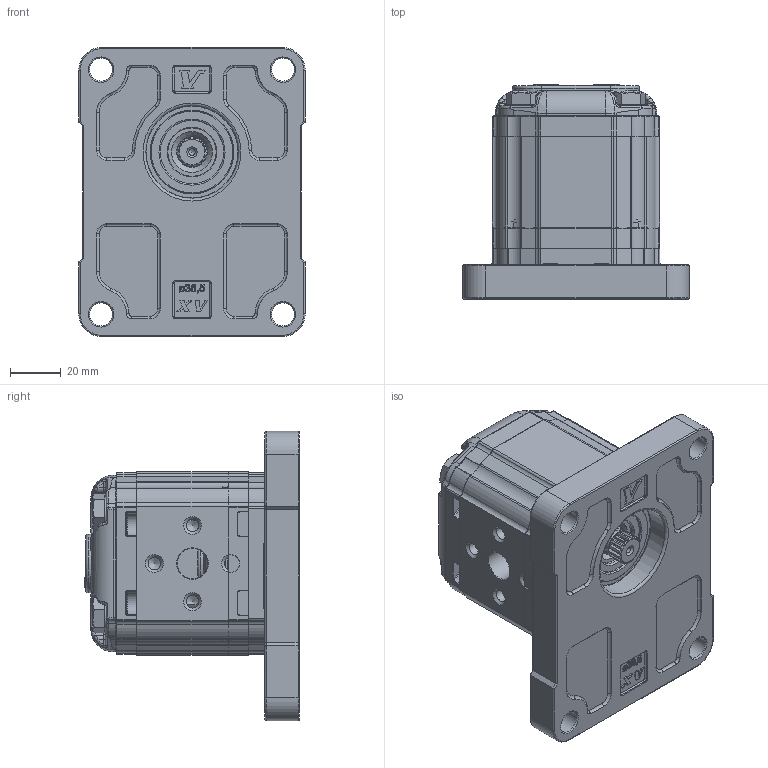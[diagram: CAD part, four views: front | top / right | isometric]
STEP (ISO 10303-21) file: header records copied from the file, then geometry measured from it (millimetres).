
FILE_DESCRIPTION( ( 'Unknown' ), '1' );
FILE_NAME( 'P:/montaggio_easy/output/STP/X1F1882TIIA.stp', 'Unknown', ( 'Unknown' ), ( 'Unknown' ), 'PSStep 14.0', 'Unknown', ' ' );
FILE_SCHEMA( ( 'AUTOMOTIVE_DESIGN { 1 0 10303 214 1 1 1 1 }' ) );
Length unit declared in the file: millimetre
Products named in the file (5): Assem1; X1F82; 1T; X1IIH44; XF103-A
Bounding box: 89 x 84.4 x 113.7 mm (x, y, z)
Volume: 768176.6 mm3; surface area: 149106.7 mm2
Topology: 8 solids, 8 shells, 4006 faces, 10392 edges, 6600 vertices
Faces by surface type: plane 1714, cylinder 1130, torus 468, extrusion 342, bspline 212, cone 128, sphere 12
Full cylindrical faces by diameter (mm): 2.5 x2, 3 x4, 5 x16, 8 x8, 8.5 x4, 9 x12, 9.9 x2, 10.5 x4, 11.965 x2, 12 x12, 15.941 x2, 17.135 x2, 17.99 x2, 19 x2, 25 x2, 32.5 x2, 36.5 x2
Entity records: 83707 total; most frequent: CARTESIAN_POINT 19504, ORIENTED_EDGE 10028, DIRECTION 9811, EDGE_CURVE 5014, AXIS2_PLACEMENT_3D 3435, VERTEX_POINT 3261, VECTOR 2941, LINE 2770
